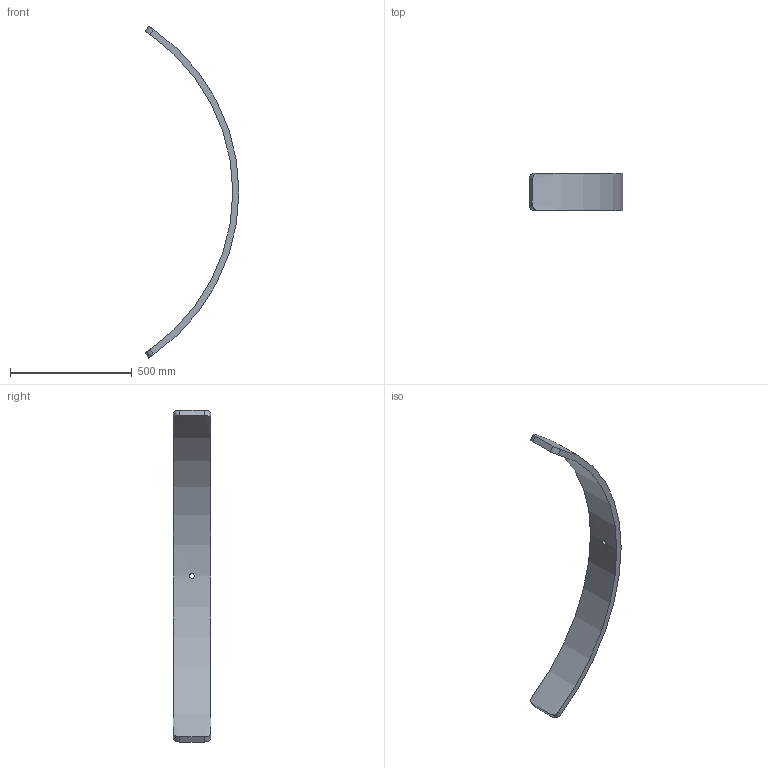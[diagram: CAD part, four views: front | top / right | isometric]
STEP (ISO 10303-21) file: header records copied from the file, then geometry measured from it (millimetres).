
FILE_DESCRIPTION (( 'STEP AP214' ), '1' );
FILE_NAME ('Section 3 AR.STEP', '2025-01-09T19:43:26', ( '' ), ( '' ), 'SwSTEP 2.0', 'SolidWorks 2024', '' );
FILE_SCHEMA (( 'AUTOMOTIVE_DESIGN' ));
Length unit declared in the file: inch
Products named in the file (1): Section 3 AR
Bounding box: 385.56 x 152.4 x 1363.32 mm (x, y, z)
Volume: 6148855.2 mm3; surface area: 573325.8 mm2
Topology: 1 solids, 1 shells, 11 faces, 27 edges, 18 vertices
Faces by surface type: cylinder 7, plane 4
Full cylindrical faces by diameter (mm): 19.431 x1
Entity records: 745 total; most frequent: CARTESIAN_POINT 470, ORIENTED_EDGE 52, DIRECTION 44, EDGE_CURVE 26, VERTEX_POINT 18, AXIS2_PLACEMENT_3D 16, EDGE_LOOP 14, VECTOR 12
